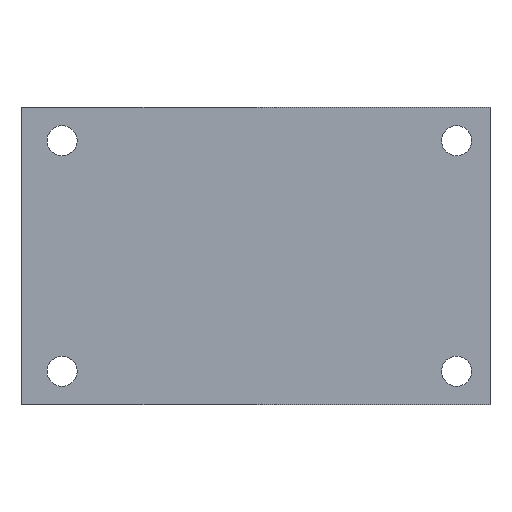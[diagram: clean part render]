
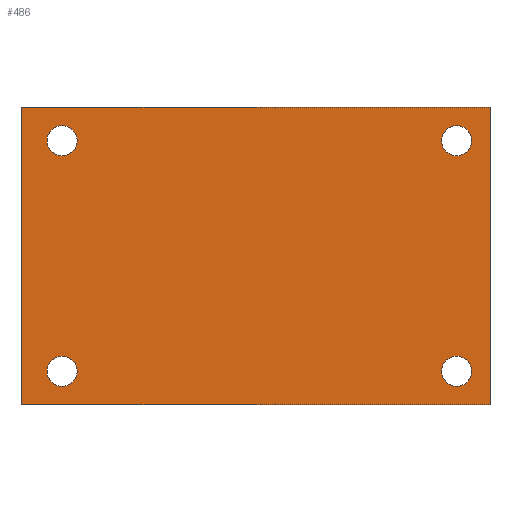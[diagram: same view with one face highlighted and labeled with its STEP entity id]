
A CAD part, front view. The second image highlights one B-rep face of the part: STEP entity #486.
In plain terms, the highlighted planar face has unit normal (0, -1, 0).
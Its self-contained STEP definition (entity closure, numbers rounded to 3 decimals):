
#486=ADVANCED_FACE('',(#890,#891,#892,#893,#894),#895,.F.);
#890=FACE_OUTER_BOUND('',#1323,.T.);
#891=FACE_BOUND('',#1324,.T.);
#892=FACE_BOUND('',#1325,.T.);
#893=FACE_BOUND('',#1326,.T.);
#894=FACE_BOUND('',#1327,.T.);
#895=PLANE('',#1328);
#1323=EDGE_LOOP('',(#2691,#2692,#2693,#2694));
#1324=EDGE_LOOP('',(#2695));
#1325=EDGE_LOOP('',(#2696));
#1326=EDGE_LOOP('',(#2697));
#1327=EDGE_LOOP('',(#2698));
#1328=AXIS2_PLACEMENT_3D('',#2699,#2700,#2701);
#2691=ORIENTED_EDGE('',*,*,#3187,.T.);
#2692=ORIENTED_EDGE('',*,*,#3188,.F.);
#2693=ORIENTED_EDGE('',*,*,#3189,.F.);
#2694=ORIENTED_EDGE('',*,*,#3177,.T.);
#2695=ORIENTED_EDGE('',*,*,#3190,.F.);
#2696=ORIENTED_EDGE('',*,*,#3191,.F.);
#2697=ORIENTED_EDGE('',*,*,#3183,.F.);
#2698=ORIENTED_EDGE('',*,*,#3192,.F.);
#2699=CARTESIAN_POINT('',(0.0,0.0,22.25));
#2700=DIRECTION('',(-0.0,1.0,0.0));
#2701=DIRECTION('',(1.0,0.0,0.0));
#3177=EDGE_CURVE('',#3892,#3890,#3893,.T.);
#3183=EDGE_CURVE('',#3903,#3903,#3904,.T.);
#3187=EDGE_CURVE('',#3890,#3911,#3912,.T.);
#3188=EDGE_CURVE('',#3913,#3911,#3914,.T.);
#3189=EDGE_CURVE('',#3892,#3913,#3915,.T.);
#3190=EDGE_CURVE('',#3916,#3916,#3917,.T.);
#3191=EDGE_CURVE('',#3918,#3918,#3919,.T.);
#3192=EDGE_CURVE('',#3920,#3920,#3921,.T.);
#3890=VERTEX_POINT('',#5050);
#3892=VERTEX_POINT('',#5053);
#3893=LINE('',#5054,#5055);
#3903=VERTEX_POINT('',#5066);
#3904=CIRCLE('',#5067,2.25);
#3911=VERTEX_POINT('',#5074);
#3912=LINE('',#5075,#5076);
#3913=VERTEX_POINT('',#5077);
#3914=LINE('',#5078,#5079);
#3915=LINE('',#5080,#5081);
#3916=VERTEX_POINT('',#5082);
#3917=CIRCLE('',#5083,2.25);
#3918=VERTEX_POINT('',#5084);
#3919=CIRCLE('',#5085,2.25);
#3920=VERTEX_POINT('',#5086);
#3921=CIRCLE('',#5087,2.25);
#5050=CARTESIAN_POINT('',(0.0,0.0,-22.25));
#5053=CARTESIAN_POINT('',(0.0,0.0,22.25));
#5054=CARTESIAN_POINT('',(0.0,0.0,22.25));
#5055=VECTOR('',#5669,1.0);
#5066=CARTESIAN_POINT('',(6.0,0.0,-15.0));
#5067=AXIS2_PLACEMENT_3D('',#5683,#5684,#5685);
#5074=CARTESIAN_POINT('',(70.0,0.0,-22.25));
#5075=CARTESIAN_POINT('',(0.0,0.0,-22.25));
#5076=VECTOR('',#5695,1.0);
#5077=CARTESIAN_POINT('',(70.0,0.0,22.25));
#5078=CARTESIAN_POINT('',(70.0,0.0,22.25));
#5079=VECTOR('',#5696,1.0);
#5080=CARTESIAN_POINT('',(0.0,0.0,22.25));
#5081=VECTOR('',#5697,1.0);
#5082=CARTESIAN_POINT('',(6.0,0.0,19.5));
#5083=AXIS2_PLACEMENT_3D('',#5698,#5699,#5700);
#5084=CARTESIAN_POINT('',(65.0,0.0,-15.0));
#5085=AXIS2_PLACEMENT_3D('',#5701,#5702,#5703);
#5086=CARTESIAN_POINT('',(65.0,0.0,19.5));
#5087=AXIS2_PLACEMENT_3D('',#5704,#5705,#5706);
#5669=DIRECTION('',(0.0,0.0,-1.0));
#5683=CARTESIAN_POINT('',(6.0,0.0,-17.25));
#5684=DIRECTION('',(0.0,-1.0,0.0));
#5685=DIRECTION('',(0.0,0.0,1.0));
#5695=DIRECTION('',(1.0,0.0,0.0));
#5696=DIRECTION('',(0.0,0.0,-1.0));
#5697=DIRECTION('',(1.0,0.0,0.0));
#5698=CARTESIAN_POINT('',(6.0,0.0,17.25));
#5699=DIRECTION('',(0.0,-1.0,0.0));
#5700=DIRECTION('',(0.0,0.0,1.0));
#5701=CARTESIAN_POINT('',(65.0,0.0,-17.25));
#5702=DIRECTION('',(0.0,-1.0,0.0));
#5703=DIRECTION('',(0.0,0.0,1.0));
#5704=CARTESIAN_POINT('',(65.0,0.0,17.25));
#5705=DIRECTION('',(0.0,-1.0,0.0));
#5706=DIRECTION('',(0.0,0.0,1.0));
